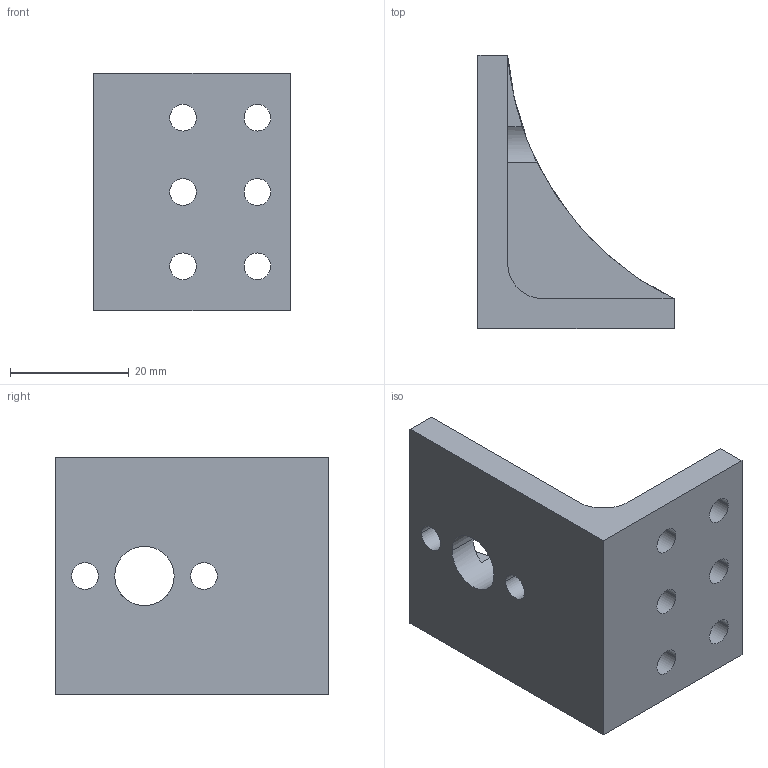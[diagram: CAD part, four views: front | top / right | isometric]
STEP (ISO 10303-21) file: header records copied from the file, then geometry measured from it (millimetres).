
FILE_DESCRIPTION (( 'STEP AP203' ), '1' );
FILE_NAME ('2AB164.STEP', '2008-04-02T20:09:08', ( 'STANDA' ), ( '' ), 'SwSTEP 2.0', 'SolidWorks 2003240', '' );
FILE_SCHEMA (( 'CONFIG_CONTROL_DESIGN' ));
Length unit declared in the file: millimetre
Products named in the file (1): 2AB164
Bounding box: 33 x 46 x 40 mm (x, y, z)
Volume: 15617.2 mm3; surface area: 7909.3 mm2
Topology: 1 solids, 1 shells, 34 faces, 95 edges, 62 vertices
Faces by surface type: cylinder 21, plane 13
Entity records: 1235 total; most frequent: DIRECTION 208, CARTESIAN_POINT 205, ORIENTED_EDGE 190, EDGE_CURVE 95, AXIS2_PLACEMENT_3D 79, VERTEX_POINT 62, EDGE_LOOP 51, VECTOR 50
